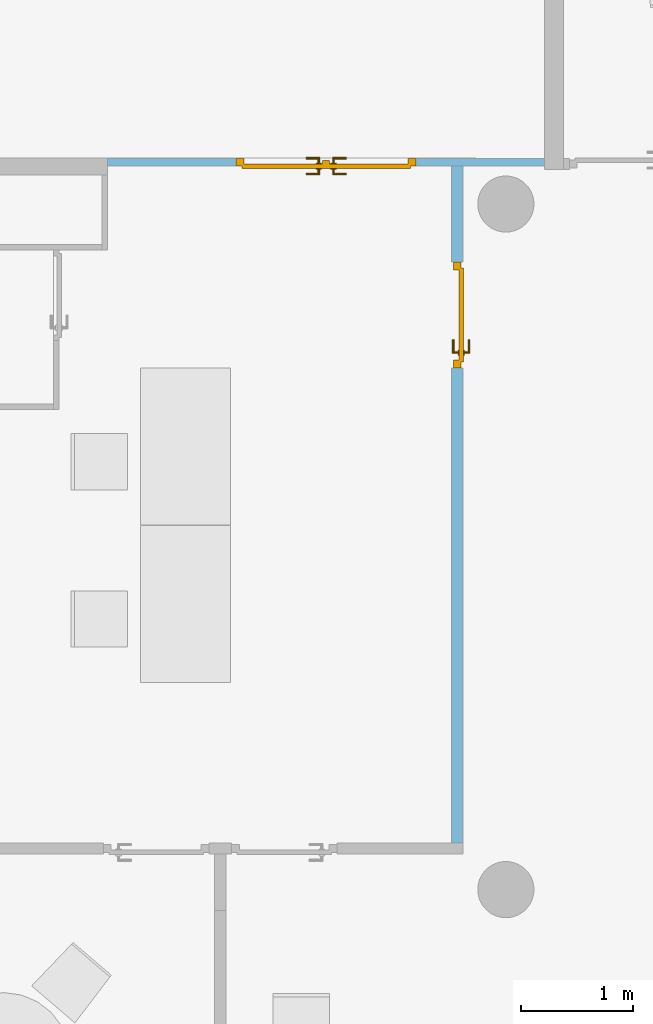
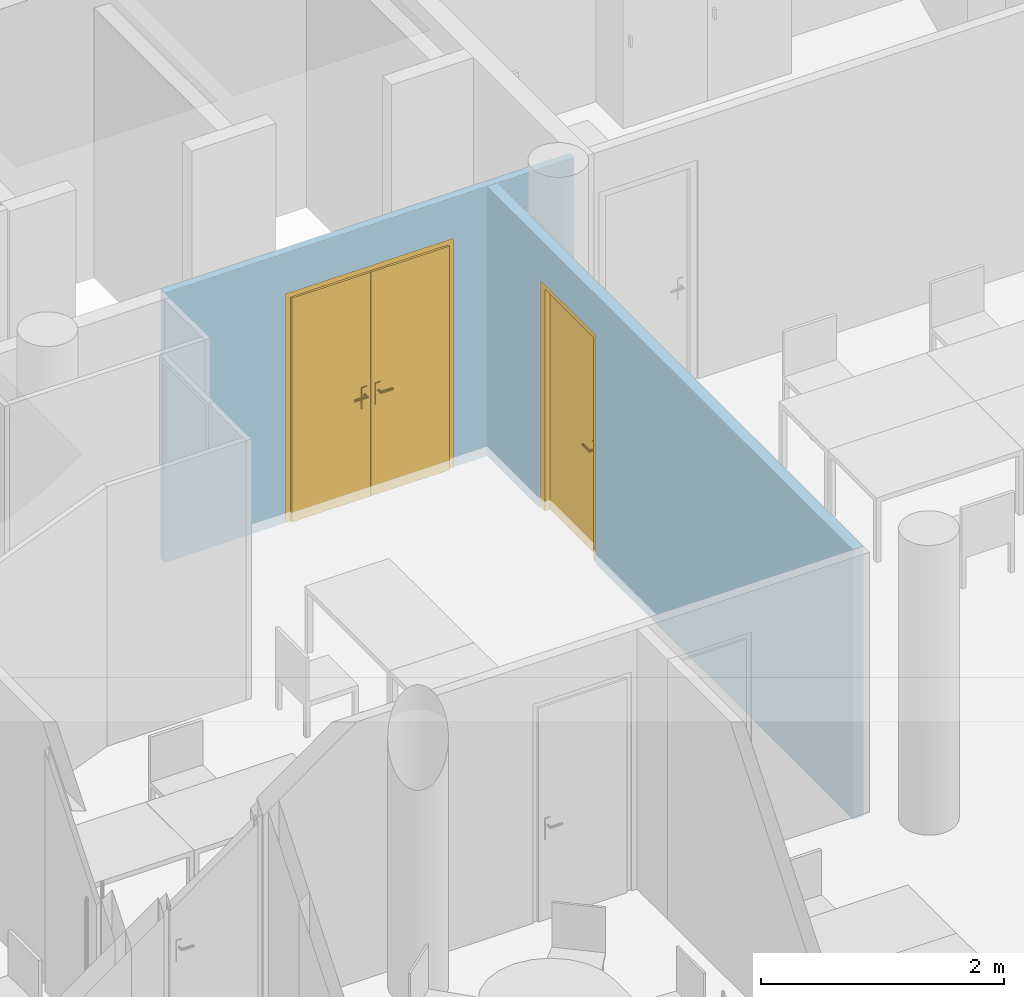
"""IFC4 building model written with IfcOpenShell, lengths in metres."""

import ifcopenshell
import ifcopenshell.guid

model = None  # the IFC model being written
_history = None  # IfcOwnerHistory: only IFC2X3 demands one
_inside = {}  # id of a spatial element -> (the spatial element, [elements in it])
_under = {}  # id of a project, library or spatial element -> (it, [spatial elements below it])
_declared = {}  # id of a project -> (the project, [libraries it declares])
_typed = {}  # id of a type object -> (the type object, [elements of that type])
_made_of = {}  # id of a material, layer set ... -> (it, [elements and type objects made of it])


def new_model(schema):
    """Start an empty IFC model of exactly this schema.

    Asked for "IFC4X3", IfcOpenShell would pick the latest addendum, in which some entities
    have other attributes; the version numbers below select the first issue.
    IFC2X3 requires an IfcOwnerHistory on every rooted entity: one is made here for all.
    """
    global model, _history
    if schema == "IFC4X3":
        model = ifcopenshell.file(schema_version=(4, 3, 0, 0))
    else:
        model = ifcopenshell.file(schema=schema)
    _inside.clear()
    _under.clear()
    _declared.clear()
    _typed.clear()
    _made_of.clear()
    _history = None
    if model.schema == "IFC2X3":
        org = make("IfcOrganization", Name="unknown")
        user = make(
            "IfcPersonAndOrganization",
            ThePerson=make("IfcPerson", FamilyName="unknown"),
            TheOrganization=org,
        )
        app = make(
            "IfcApplication",
            ApplicationDeveloper=org,
            Version="unknown",
            ApplicationFullName="unknown",
            ApplicationIdentifier="unknown",
        )
        _history = make(
            "IfcOwnerHistory",
            OwningUser=user,
            OwningApplication=app,
            ChangeAction="ADDED",
            CreationDate=0,
        )
    return model


def make(cls, **values):
    """One entity of the class cls with the attributes given. An attribute that is None is left unset."""
    return model.create_entity(
        cls, **{name: value for name, value in values.items() if value is not None}
    )


def entity(cls, *values):
    """Any entity or typed value of the class cls, its attributes in the order of the schema. None: left unset."""
    e = model.create_entity(cls)
    for i, value in enumerate(values):
        if value is not None:
            e[i] = value
    return e


def rooted(cls, **values):
    """An entity with a GlobalId (a new one), such as an element, a storey or a relation."""
    return make(cls, GlobalId=ifcopenshell.guid.new(), OwnerHistory=_history, **values)


def si_unit(unit_type, name, prefix=None):
    """IfcSIUnit, for example si_unit("LENGTHUNIT", "METRE", prefix="MILLI")."""
    return make("IfcSIUnit", UnitType=unit_type, Prefix=prefix, Name=name)


def converted_unit(unit_type, name, factor, base, dimensions=None, offset=None):
    """IfcConversionBasedUnit, such as the inch: factor (a typed value) times the base unit."""
    return make(
        "IfcConversionBasedUnit"
        if offset is None
        else "IfcConversionBasedUnitWithOffset",
        ConversionOffset=offset,
        Dimensions=None
        if dimensions is None
        else entity("IfcDimensionalExponents", *dimensions),
        UnitType=unit_type,
        Name=name,
        ConversionFactor=make(
            "IfcMeasureWithUnit", ValueComponent=factor, UnitComponent=base
        ),
    )


def derived_unit(unit_type, elements):
    """IfcDerivedUnit: a product of units, each with its exponent."""
    return make(
        "IfcDerivedUnit",
        Elements=[
            make("IfcDerivedUnitElement", Unit=unit, Exponent=power)
            for unit, power in elements
        ],
        UnitType=unit_type,
    )


def assignment(units):
    """IfcUnitAssignment: the units of a project."""
    return None if units is None else make("IfcUnitAssignment", Units=units)


def point(xyz):
    """IfcCartesianPoint."""
    return None if xyz is None else make("IfcCartesianPoint", Coordinates=xyz)


def direction(xyz):
    """IfcDirection."""
    return None if xyz is None else make("IfcDirection", DirectionRatios=xyz)


def frame(location, z_axis=None, x_axis=None):
    """IfcAxis2Placement3D, a coordinate frame: its origin and axes. An axis left out is left unset."""
    return make(
        "IfcAxis2Placement3D",
        Location=point(location),
        Axis=direction(z_axis),
        RefDirection=direction(x_axis),
    )


def frame_2d(location, x_axis=None):
    """IfcAxis2Placement2D, a coordinate frame in the plane: its origin and x axis."""
    return make(
        "IfcAxis2Placement2D", Location=point(location), RefDirection=direction(x_axis)
    )


def origin():
    """The frame at (0, 0, 0) with its axes left unset."""
    return frame((0.0, 0.0, 0.0))


def origin_with_axes():
    """The frame at (0, 0, 0) with the z axis (0, 0, 1) and the x axis (1, 0, 0) written out."""
    return frame((0.0, 0.0, 0.0), z_axis=(0.0, 0.0, 1.0), x_axis=(1.0, 0.0, 0.0))


def place(relative_to, where):
    """IfcLocalPlacement: puts the frame where relative to a parent placement (None: the world)."""
    return make(
        "IfcLocalPlacement", PlacementRelTo=relative_to, RelativePlacement=where
    )


def context(
    kind, dimensions, precision=None, world=None, true_north=None, identifier=None
):
    """IfcGeometricRepresentationContext, for example the 3D "Model" context."""
    return make(
        "IfcGeometricRepresentationContext",
        ContextIdentifier=identifier,
        ContextType=kind,
        CoordinateSpaceDimension=dimensions,
        Precision=precision,
        WorldCoordinateSystem=world,
        TrueNorth=true_north,
    )


def subcontext(parent, identifier, kind, view, scale=None):
    """IfcGeometricRepresentationSubContext, for example "Body" below "Model"."""
    return make(
        "IfcGeometricRepresentationSubContext",
        ContextIdentifier=identifier,
        ContextType=kind,
        ParentContext=parent,
        TargetScale=scale,
        TargetView=view,
    )


def project(units=None, contexts=None):
    """IfcProject with its units and contexts."""
    return rooted(
        "IfcProject",
        Name="project",
        RepresentationContexts=contexts,
        UnitsInContext=assignment(units),
    )


def spatial(cls, under=None, at=None, **own):
    """A site, building, storey or space (cls), placed at a placement, below another one or the project."""
    s = rooted(cls, ObjectPlacement=at, **own)
    if under is not None:
        _under.setdefault(under.id(), (under, []))[1].append(s)
    return s


def polyline(points):
    """IfcPolyline through the points."""
    return make("IfcPolyline", Points=[point(p) for p in points])


def profile(cls, at=None, kind="AREA", **sizes):
    """A parametric profile (cls). Its sizes go by their IFC names, for example OverallWidth=200.0."""
    return make(cls, ProfileType=kind, Position=at, **sizes)


def rectangle(**sizes):
    """IfcRectangleProfileDef."""
    return profile("IfcRectangleProfileDef", **sizes)


def outline(outer, holes=None, kind="AREA"):
    """IfcArbitraryClosedProfileDef: a profile drawn as a closed curve; with holes, ...WithVoids."""
    if holes is None:
        return make("IfcArbitraryClosedProfileDef", ProfileType=kind, OuterCurve=outer)
    return make(
        "IfcArbitraryProfileDefWithVoids",
        ProfileType=kind,
        OuterCurve=outer,
        InnerCurves=holes,
    )


def extrude(swept, where, along, depth):
    """IfcExtrudedAreaSolid: the profile swept, set in the frame where, extruded along a direction by depth."""
    return make(
        "IfcExtrudedAreaSolid",
        SweptArea=swept,
        Position=where,
        ExtrudedDirection=direction(along),
        Depth=depth,
    )


def faces_of(points, faces, orient=None, outer=None):
    """IfcFace entities. A face is a list of loops; a loop is a list of indices into points, from 0.

    orient and outer hold one flag for each loop. By default every Orientation is true, the
    first loop of a face is its IfcFaceOuterBound and the others are IfcFaceBound.
    """
    made = []
    for i, loops in enumerate(faces):
        bounds = []
        for j, loop in enumerate(loops):
            is_outer = j == 0 if outer is None else outer[i][j]
            bounds.append(
                make(
                    "IfcFaceOuterBound" if is_outer else "IfcFaceBound",
                    Bound=make("IfcPolyLoop", Polygon=[points[k] for k in loop]),
                    Orientation=True if orient is None else orient[i][j],
                )
            )
        made.append(make("IfcFace", Bounds=bounds))
    return made


def faceted_brep(points, faces, orient=None, outer=None, voids=None):
    """IfcFacetedBrep: a solid bounded by flat faces; with voids (closed shells), ...WithVoids."""
    shared = [point(p) for p in points]
    hull = make("IfcClosedShell", CfsFaces=faces_of(shared, faces, orient, outer))
    if voids is None:
        return make("IfcFacetedBrep", Outer=hull)
    return make(
        "IfcFacetedBrepWithVoids",
        Outer=hull,
        Voids=[
            make(cls, CfsFaces=faces_of(shared, fs, o, b)) for cls, fs, o, b in voids
        ],
    )


def shape(context_of_items, identifier, shape_type, items):
    """IfcShapeRepresentation: the items that make up one representation, for example the "Body"."""
    return make(
        "IfcShapeRepresentation",
        ContextOfItems=context_of_items,
        RepresentationIdentifier=identifier,
        RepresentationType=shape_type,
        Items=items,
    )


def source(mapping_origin, context_of_items, identifier, shape_type, items):
    """IfcRepresentationMap: a shape defined once, which mapped items show again and again."""
    return make(
        "IfcRepresentationMap",
        MappingOrigin=mapping_origin,
        MappedRepresentation=shape(context_of_items, identifier, shape_type, items),
    )


def transform(
    local_origin,
    x_axis=None,
    y_axis=None,
    z_axis=None,
    scale=None,
    scale2=None,
    scale3=None,
    uniform=True,
):
    """IfcCartesianTransformationOperator3D, or its non-uniform kind. x_axis, y_axis, z_axis: its Axis1, 2, 3."""
    if uniform:
        return make(
            "IfcCartesianTransformationOperator3D",
            Axis1=direction(x_axis),
            Axis2=direction(y_axis),
            LocalOrigin=point(local_origin),
            Scale=scale,
            Axis3=direction(z_axis),
        )
    return make(
        "IfcCartesianTransformationOperator3DnonUniform",
        Axis1=direction(x_axis),
        Axis2=direction(y_axis),
        LocalOrigin=point(local_origin),
        Scale=scale,
        Axis3=direction(z_axis),
        Scale2=scale2,
        Scale3=scale3,
    )


def mapped(mapping_source, mapping_target):
    """IfcMappedItem: shows the shape of a source again, moved by a transform."""
    return make(
        "IfcMappedItem", MappingSource=mapping_source, MappingTarget=mapping_target
    )


def material(Name=None, Category=None):
    """IfcMaterial."""
    return make("IfcMaterial", Name=Name, Category=Category)


def layer(
    of_material, thickness, ventilated=None, Name=None, Category=None, Priority=None
):
    """IfcMaterialLayer: one layer of a wall or slab, of a material (None: an air gap)."""
    return make(
        "IfcMaterialLayer",
        Material=of_material,
        LayerThickness=thickness,
        IsVentilated=ventilated,
        Name=Name,
        Category=Category,
        Priority=Priority,
    )


def layer_set(layers, Name=None):
    """IfcMaterialLayerSet."""
    return make("IfcMaterialLayerSet", MaterialLayers=layers, LayerSetName=Name)


def layer_usage(for_layer_set, set_direction, sense, offset, extent=None):
    """IfcMaterialLayerSetUsage: how a layer set lies in its element."""
    return make(
        "IfcMaterialLayerSetUsage",
        ForLayerSet=for_layer_set,
        LayerSetDirection=set_direction,
        DirectionSense=sense,
        OffsetFromReferenceLine=offset,
        ReferenceExtent=extent,
    )


def made_of(thing, what):
    """Note that an element or type object is made of a material, layer set ...; save() writes the relation."""
    if what is not None:
        _made_of.setdefault(what.id(), (what, []))[1].append(thing)
    return thing


def element(
    cls,
    number,
    at=None,
    inside=None,
    cuts=None,
    type_object=None,
    material=None,
    context=None,
    identifier="Body",
    shape_type=None,
    held_by="IfcProductDefinitionShape",
    body=None,
    shapes=None,
    **own,
):
    """One element of the class cls, such as IfcWall. Its Tag is "e" and its number.

    at: its placement. inside: the storey or other place that contains it. cuts: it is an
    opening in that element (IfcRelVoidsElement). A single representation is given by context,
    identifier, shape_type and body (its items); several are given by shapes. held_by: the class
    of the entity that holds the representations. save() writes the other relations.
    """
    e = rooted(cls, Tag="e%d" % number, ObjectPlacement=at, **own)
    if body is not None:
        shapes = [shape(context, identifier, shape_type, body)]
    if shapes is not None:
        e.Representation = make(held_by, Representations=shapes)
    if inside is not None:
        _inside.setdefault(inside.id(), (inside, []))[1].append(e)
    if cuts is not None:
        rooted(
            "IfcRelVoidsElement", RelatingBuildingElement=cuts, RelatedOpeningElement=e
        )
    if type_object is not None:
        _typed.setdefault(type_object.id(), (type_object, []))[1].append(e)
    return made_of(e, material)


def fill(opening, filler):
    """IfcRelFillsElement: the door or window that sits in an opening."""
    return rooted(
        "IfcRelFillsElement",
        RelatingOpeningElement=opening,
        RelatedBuildingElement=filler,
    )


def aggregate(whole, parts):
    """IfcRelAggregates: a whole, such as a stair, and the parts it consists of."""
    return rooted("IfcRelAggregates", RelatingObject=whole, RelatedObjects=parts)


def save(model, path):
    """Write the relations noted so far, then the file.

    IfcRelAggregates (storeys below a building ...), IfcRelContainedInSpatialStructure (elements
    in a storey), IfcRelDefinesByType, IfcRelAssociatesMaterial and IfcRelDeclares: one each for
    every whole, place, type object, material and project.
    """
    for whole, parts in _under.values():
        aggregate(whole, parts)
    for where, things in _inside.values():
        rooted(
            "IfcRelContainedInSpatialStructure",
            RelatedElements=things,
            RelatingStructure=where,
        )
    for kind, things in _typed.values():
        rooted("IfcRelDefinesByType", RelatedObjects=things, RelatingType=kind)
    for what, things in _made_of.values():
        rooted("IfcRelAssociatesMaterial", RelatedObjects=things, RelatingMaterial=what)
    for by, libraries in _declared.values():
        rooted("IfcRelDeclares", RelatingContext=by, RelatedDefinitions=libraries)
    model.write(path)


model = new_model("IFC4")

# Units and contexts
model_context = context("Model", 3, precision=1e-05, world=origin())
body_context = subcontext(model_context, "Body", "Model", "MODEL_VIEW")
ifc_project = project(units=[si_unit("LENGTHUNIT", "METRE"), si_unit("AREAUNIT", "SQUARE_METRE"), si_unit("VOLUMEUNIT", "CUBIC_METRE"), si_unit("MASSUNIT", "GRAM", prefix="KILO"), converted_unit("PLANEANGLEUNIT", "DEGREE", entity("IfcPlaneAngleMeasure", 0.0174532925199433), si_unit("PLANEANGLEUNIT", "RADIAN"), dimensions=[0, 0, 0, 0, 0, 0, 0]), derived_unit("THERMALTRANSMITTANCEUNIT", [(si_unit("POWERUNIT", "WATT"), 1), (si_unit("THERMODYNAMICTEMPERATUREUNIT", "KELVIN"), -1), (si_unit("LENGTHUNIT", "METRE"), -2)]), derived_unit("VOLUMETRICFLOWRATEUNIT", [(si_unit("LENGTHUNIT", "METRE"), 3), (converted_unit("TIMEUNIT", "hour", entity("IfcTimeMeasure", 3600.0), si_unit("TIMEUNIT", "SECOND"), dimensions=[0, 0, 1, 0, 0, 0, 0]), -1), (si_unit("LENGTHUNIT", "METRE"), -1)])], contexts=[model_context])

# Building, storeys
building_placement = place(None, origin())
building = spatial("IfcBuilding", under=ifc_project, at=building_placement, Name="HABITATGE PLURIFAMILIAR", CompositionType="ELEMENT")
storey_1_placement = place(building_placement, frame((0.0, 0.0, 9.26)))
storey_1 = spatial("IfcBuildingStorey", under=building, at=storey_1_placement, Name="PLANTA SEGONA", CompositionType="ELEMENT", Elevation=9.26)
storey_2_placement = place(storey_1_placement, frame((0.0, 0.0, 6.25)))
storey_2 = spatial("IfcBuildingStorey", under=storey_1, at=storey_2_placement, Name="NOU", CompositionType="PARTIAL")

# Wall, opening, door
ifc_material_1 = material()
ifc_layer_1 = layer(ifc_material_1, 0.07)
ifc_layer_set_1 = layer_set([ifc_layer_1])
ifc_layer_usage_1 = layer_usage(ifc_layer_set_1, "AXIS2", "POSITIVE", 0.0)
wall_1_placement = place(storey_2_placement, frame((421.336984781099, 24.3069029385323, -6.35), z_axis=(0.0, 0.0, 1.0), x_axis=(-1.0, 0.0, 0.0)))
wall_1 = element("IfcWall", 1, at=wall_1_placement, inside=storey_2, material=ifc_layer_usage_1, Name="Mampara P2", context=body_context, shape_type="SweptSolid", body=[
    extrude(rectangle(XDim=3.89, YDim=0.07, at=frame_2d((1.945, 0.035), x_axis=(1.0, 0.0))), origin_with_axes(), (0.0, 0.0, 1.0), 2.71),
])
opening_1_placement = place(wall_1_placement, frame((2.74438738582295, 0.07, 0.0), z_axis=(0.0, -1.0, 0.0), x_axis=(0.0, 0.0, 1.0)))
opening_1 = element("IfcOpeningElement", 2, at=opening_1_placement, cuts=wall_1, Name="Vano puerta", ObjectType="Opening", context=body_context, shape_type="SweptSolid", body=[
    extrude(outline(polyline([(2.3, 1.60013809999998), (2.3, 0.0), (0.0, 0.0), (0.0, 1.60013809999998), (2.3, 1.60013809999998)])), origin_with_axes(), (0.0, 0.0, 1.0), 0.07),
])
shared_shape_1 = source(origin_with_axes(), body_context, "Body", "Brep", [
    faceted_brep([(1.60013809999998, 0.07, 2.3), (1.53013809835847, 0.07, 2.3), (1.53013809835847, 0.07, 0.0), (1.60013809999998, 0.07, 0.0), (1.60013809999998, 0.0, 0.0), (1.53013809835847, 0.0, 0.0), (1.53013809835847, 0.0, 2.3), (1.60013809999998, 0.0, 2.3)], [[[0, 1, 2, 3]], [[4, 5, 6, 7]], [[3, 4, 7, 0]], [[2, 5, 4, 3]], [[1, 6, 5, 2]], [[0, 7, 6, 1]]], orient=[[False], [False], [False], [False], [False], [False]]),
    faceted_brep([(0.0700000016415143, 0.07, 2.3), (0.0, 0.07, 2.3), (0.0, 0.07, 0.0), (0.0700000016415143, 0.07, 0.0), (0.0700000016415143, 0.0, 0.0), (0.0, 0.0, 0.0), (0.0, 0.0, 2.3), (0.0700000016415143, 0.0, 2.3)], [[[0, 1, 2, 3]], [[4, 5, 6, 7]], [[3, 4, 7, 0]], [[2, 5, 4, 3]], [[1, 6, 5, 2]], [[0, 7, 6, 1]]], orient=[[False], [False], [False], [False], [False], [False]]),
    faceted_brep([(1.53013809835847, 0.07, 2.3), (0.0700000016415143, 0.07, 2.3), (0.0700000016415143, 0.07, 2.23), (1.53013809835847, 0.07, 2.23), (1.53013809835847, 0.0, 2.23), (0.0700000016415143, 0.0, 2.23), (0.0700000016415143, 0.0, 2.3), (1.53013809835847, 0.0, 2.3)], [[[0, 1, 2, 3]], [[4, 5, 6, 7]], [[3, 4, 7, 0]], [[2, 5, 4, 3]], [[1, 6, 5, 2]], [[0, 7, 6, 1]]], orient=[[False], [False], [False], [False], [False], [False]]),
    faceted_brep([(1.55013809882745, 0.09, 2.25), (0.800569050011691, 0.09, 2.25), (0.800569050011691, 0.09, 0.0), (1.55013809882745, 0.09, 0.0), (1.55013809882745, 0.05, 0.0), (0.800569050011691, 0.05, 0.0), (0.800569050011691, 0.05, 2.25), (1.55013809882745, 0.05, 2.25)], [[[0, 1, 2, 3]], [[4, 5, 6, 7]], [[3, 4, 7, 0]], [[2, 5, 4, 3]], [[1, 6, 5, 2]], [[0, 7, 6, 1]]], orient=[[False], [False], [False], [False], [False], [False]]),
    faceted_brep([(0.830569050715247, 0.05, 2.23), (0.770569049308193, 0.05, 2.23), (0.770569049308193, 0.05, 0.0), (0.830569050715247, 0.05, 0.0), (0.830569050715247, 0.02, 0.0), (0.770569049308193, 0.02, 0.0), (0.770569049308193, 0.02, 2.23), (0.830569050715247, 0.02, 2.23)], [[[0, 1, 2, 3]], [[4, 5, 6, 7]], [[3, 4, 7, 0]], [[2, 5, 4, 3]], [[1, 6, 5, 2]], [[0, 7, 6, 1]]], orient=[[False], [False], [False], [False], [False], [False]]),
    faceted_brep([(0.890569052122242, 0.05, 1.125), (0.840569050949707, 0.05, 1.125), (0.840569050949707, 0.05, 0.91), (0.890569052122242, 0.05, 0.91), (0.890569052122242, 0.04, 0.91), (0.840569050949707, 0.04, 0.91), (0.840569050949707, 0.04, 1.125), (0.890569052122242, 0.04, 1.125)], [[[0, 1, 2, 3]], [[4, 5, 6, 7]], [[3, 4, 7, 0]], [[2, 5, 4, 3]], [[1, 6, 5, 2]], [[0, 7, 6, 1]]], orient=[[False], [False], [False], [False], [False], [False]]),
    faceted_brep([(0.865569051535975, 0.04, 1.06), (0.860569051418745, 0.04, 1.05866025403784), (0.856908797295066, 0.04, 1.055), (0.855569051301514, 0.04, 1.05), (0.856908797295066, 0.04, 1.045), (0.860569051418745, 0.04, 1.04133974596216), (0.865569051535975, 0.04, 1.04), (0.870569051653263, 0.04, 1.04133974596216), (0.874229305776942, 0.04, 1.045), (0.875569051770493, 0.04, 1.05), (0.874229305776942, 0.04, 1.055), (0.870569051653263, 0.04, 1.05866025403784), (0.865569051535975, 0.0, 1.06), (0.860569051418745, -0.005, 1.05866025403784), (0.856908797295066, -0.00866025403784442, 1.055), (0.855569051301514, -0.01, 1.05), (0.856908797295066, -0.00866025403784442, 1.045), (0.860569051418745, -0.005, 1.04133974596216), (0.865569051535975, 0.0, 1.04), (0.870569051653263, 0.005, 1.04133974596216), (0.874229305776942, 0.00866025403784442, 1.045), (0.875569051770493, 0.01, 1.05), (0.874229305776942, 0.00866025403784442, 1.055), (0.870569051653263, 0.005, 1.05866025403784), (0.980569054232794, 0.0, 1.06), (0.980569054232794, 0.005, 1.05866025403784), (0.980569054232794, 0.00866025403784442, 1.055), (0.980569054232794, 0.01, 1.05), (0.980569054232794, 0.00866025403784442, 1.045), (0.980569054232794, 0.005, 1.04133974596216), (0.980569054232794, 0.0, 1.04), (0.980569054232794, -0.005, 1.04133974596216), (0.980569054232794, -0.00866025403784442, 1.045), (0.980569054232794, -0.01, 1.05), (0.980569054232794, -0.00866025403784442, 1.055), (0.980569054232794, -0.005, 1.05866025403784)], [[[0, 1, 2, 3, 4, 5, 6, 7, 8, 9, 10, 11]], [[0, 12, 13, 1]], [[1, 13, 14, 2]], [[2, 14, 15, 3]], [[3, 15, 16, 4]], [[4, 16, 17, 5]], [[5, 17, 18, 6]], [[6, 18, 19, 7]], [[7, 19, 20, 8]], [[8, 20, 21, 9]], [[9, 21, 22, 10]], [[10, 22, 23, 11]], [[11, 23, 12, 0]], [[24, 25, 26, 27, 28, 29, 30, 31, 32, 33, 34, 35]], [[12, 24, 35, 13]], [[13, 35, 34, 14]], [[14, 34, 33, 15]], [[15, 33, 32, 16]], [[16, 32, 31, 17]], [[17, 31, 30, 18]], [[18, 30, 29, 19]], [[19, 29, 28, 20]], [[20, 28, 27, 21]], [[21, 27, 26, 22]], [[22, 26, 25, 23]], [[23, 25, 24, 12]]], orient=[[False], [False], [False], [False], [False], [False], [False], [False], [False], [False], [False], [False], [False], [False], [False], [False], [False], [False], [False], [False], [False], [False], [False], [False], [False], [False]]),
    faceted_brep([(0.890569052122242, 0.09, 1.125), (0.890569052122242, 0.09, 0.91), (0.840569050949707, 0.09, 0.91), (0.840569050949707, 0.09, 1.125), (0.890569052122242, 0.1, 0.91), (0.890569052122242, 0.1, 1.125), (0.840569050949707, 0.1, 1.125), (0.840569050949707, 0.1, 0.91)], [[[0, 1, 2, 3]], [[4, 5, 6, 7]], [[1, 0, 5, 4]], [[2, 1, 4, 7]], [[3, 2, 7, 6]], [[0, 3, 6, 5]]], orient=[[False], [False], [False], [False], [False], [False]]),
    faceted_brep([(0.865569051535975, 0.1, 1.06), (0.870569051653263, 0.1, 1.05866025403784), (0.874229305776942, 0.1, 1.055), (0.875569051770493, 0.1, 1.05), (0.874229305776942, 0.1, 1.045), (0.870569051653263, 0.1, 1.04133974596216), (0.865569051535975, 0.1, 1.04), (0.860569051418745, 0.1, 1.04133974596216), (0.856908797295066, 0.1, 1.045), (0.855569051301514, 0.1, 1.05), (0.856908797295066, 0.1, 1.055), (0.860569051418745, 0.1, 1.05866025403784), (0.860569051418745, 0.145, 1.05866025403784), (0.865569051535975, 0.14, 1.06), (0.856908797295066, 0.148660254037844, 1.055), (0.855569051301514, 0.15, 1.05), (0.856908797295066, 0.148660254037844, 1.045), (0.860569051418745, 0.145, 1.04133974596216), (0.865569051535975, 0.14, 1.04), (0.870569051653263, 0.135, 1.04133974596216), (0.874229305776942, 0.131339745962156, 1.045), (0.875569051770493, 0.13, 1.05), (0.874229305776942, 0.131339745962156, 1.055), (0.870569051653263, 0.135, 1.05866025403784), (0.980569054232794, 0.14, 1.06), (0.980569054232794, 0.145, 1.05866025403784), (0.980569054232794, 0.148660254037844, 1.055), (0.980569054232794, 0.15, 1.05), (0.980569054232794, 0.148660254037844, 1.045), (0.980569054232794, 0.145, 1.04133974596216), (0.980569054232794, 0.14, 1.04), (0.980569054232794, 0.135, 1.04133974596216), (0.980569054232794, 0.131339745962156, 1.045), (0.980569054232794, 0.13, 1.05), (0.980569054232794, 0.131339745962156, 1.055), (0.980569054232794, 0.135, 1.05866025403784)], [[[0, 1, 2, 3, 4, 5, 6, 7, 8, 9, 10, 11]], [[0, 11, 12, 13]], [[11, 10, 14, 12]], [[10, 9, 15, 14]], [[9, 8, 16, 15]], [[8, 7, 17, 16]], [[7, 6, 18, 17]], [[6, 5, 19, 18]], [[5, 4, 20, 19]], [[4, 3, 21, 20]], [[3, 2, 22, 21]], [[2, 1, 23, 22]], [[1, 0, 13, 23]], [[24, 25, 26, 27, 28, 29, 30, 31, 32, 33, 34, 35]], [[13, 12, 25, 24]], [[12, 14, 26, 25]], [[14, 15, 27, 26]], [[15, 16, 28, 27]], [[16, 17, 29, 28]], [[17, 18, 30, 29]], [[18, 19, 31, 30]], [[19, 20, 32, 31]], [[20, 21, 33, 32]], [[21, 22, 34, 33]], [[22, 23, 35, 34]], [[23, 13, 24, 35]]], orient=[[False], [False], [False], [False], [False], [False], [False], [False], [False], [False], [False], [False], [False], [False], [False], [False], [False], [False], [False], [False], [False], [False], [False], [False], [False], [False]]),
    faceted_brep([(0.799569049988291, 0.09, 2.25), (0.0500000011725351, 0.09, 2.25), (0.0500000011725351, 0.09, 0.0), (0.799569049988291, 0.09, 0.0), (0.799569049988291, 0.05, 0.0), (0.0500000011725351, 0.05, 0.0), (0.0500000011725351, 0.05, 2.25), (0.799569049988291, 0.05, 2.25)], [[[0, 1, 2, 3]], [[4, 5, 6, 7]], [[3, 4, 7, 0]], [[2, 5, 4, 3]], [[1, 6, 5, 2]], [[0, 7, 6, 1]]], orient=[[False], [False], [False], [False], [False], [False]]),
    faceted_brep([(0.759569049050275, 0.05, 1.125), (0.70956904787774, 0.05, 1.125), (0.70956904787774, 0.05, 0.91), (0.759569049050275, 0.05, 0.91), (0.759569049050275, 0.04, 0.91), (0.70956904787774, 0.04, 0.91), (0.70956904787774, 0.04, 1.125), (0.759569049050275, 0.04, 1.125)], [[[0, 1, 2, 3]], [[4, 5, 6, 7]], [[3, 4, 7, 0]], [[2, 5, 4, 3]], [[1, 6, 5, 2]], [[0, 7, 6, 1]]], orient=[[False], [False], [False], [False], [False], [False]]),
    faceted_brep([(0.734569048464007, 0.04, 1.06), (0.729569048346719, 0.04, 1.05866025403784), (0.72590879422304, 0.04, 1.055), (0.724569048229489, 0.04, 1.05), (0.72590879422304, 0.04, 1.045), (0.729569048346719, 0.04, 1.04133974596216), (0.734569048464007, 0.04, 1.04), (0.739569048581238, 0.04, 1.04133974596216), (0.743229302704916, 0.04, 1.045), (0.744569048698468, 0.04, 1.05), (0.743229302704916, 0.04, 1.055), (0.739569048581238, 0.04, 1.05866025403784), (0.739569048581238, -0.005, 1.05866025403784), (0.734569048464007, 0.0, 1.06), (0.743229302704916, -0.00866025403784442, 1.055), (0.744569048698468, -0.01, 1.05), (0.743229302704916, -0.00866025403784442, 1.045), (0.739569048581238, -0.005, 1.04133974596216), (0.734569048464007, 0.0, 1.04), (0.729569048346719, 0.005, 1.04133974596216), (0.72590879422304, 0.00866025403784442, 1.045), (0.724569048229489, 0.01, 1.05), (0.72590879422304, 0.00866025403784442, 1.055), (0.729569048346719, 0.005, 1.05866025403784), (0.619569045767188, 0.0, 1.06), (0.619569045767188, -0.005, 1.05866025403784), (0.619569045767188, -0.00866025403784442, 1.055), (0.619569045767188, -0.01, 1.05), (0.619569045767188, -0.00866025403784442, 1.045), (0.619569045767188, -0.005, 1.04133974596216), (0.619569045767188, 0.0, 1.04), (0.619569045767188, 0.005, 1.04133974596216), (0.619569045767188, 0.00866025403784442, 1.045), (0.619569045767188, 0.01, 1.05), (0.619569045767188, 0.00866025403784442, 1.055), (0.619569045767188, 0.005, 1.05866025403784)], [[[0, 1, 2, 3, 4, 5, 6, 7, 8, 9, 10, 11]], [[0, 11, 12, 13]], [[11, 10, 14, 12]], [[10, 9, 15, 14]], [[9, 8, 16, 15]], [[8, 7, 17, 16]], [[7, 6, 18, 17]], [[6, 5, 19, 18]], [[5, 4, 20, 19]], [[4, 3, 21, 20]], [[3, 2, 22, 21]], [[2, 1, 23, 22]], [[1, 0, 13, 23]], [[24, 25, 26, 27, 28, 29, 30, 31, 32, 33, 34, 35]], [[13, 12, 25, 24]], [[12, 14, 26, 25]], [[14, 15, 27, 26]], [[15, 16, 28, 27]], [[16, 17, 29, 28]], [[17, 18, 30, 29]], [[18, 19, 31, 30]], [[19, 20, 32, 31]], [[20, 21, 33, 32]], [[21, 22, 34, 33]], [[22, 23, 35, 34]], [[23, 13, 24, 35]]], orient=[[False], [False], [False], [False], [False], [False], [False], [False], [False], [False], [False], [False], [False], [False], [False], [False], [False], [False], [False], [False], [False], [False], [False], [False], [False], [False]]),
    faceted_brep([(0.759569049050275, 0.09, 1.125), (0.759569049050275, 0.09, 0.91), (0.70956904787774, 0.09, 0.91), (0.70956904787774, 0.09, 1.125), (0.759569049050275, 0.1, 0.91), (0.759569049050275, 0.1, 1.125), (0.70956904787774, 0.1, 1.125), (0.70956904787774, 0.1, 0.91)], [[[0, 1, 2, 3]], [[4, 5, 6, 7]], [[1, 0, 5, 4]], [[2, 1, 4, 7]], [[3, 2, 7, 6]], [[0, 3, 6, 5]]], orient=[[False], [False], [False], [False], [False], [False]]),
    faceted_brep([(0.734569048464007, 0.1, 1.06), (0.739569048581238, 0.1, 1.05866025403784), (0.743229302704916, 0.1, 1.055), (0.744569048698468, 0.1, 1.05), (0.743229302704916, 0.1, 1.045), (0.739569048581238, 0.1, 1.04133974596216), (0.734569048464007, 0.1, 1.04), (0.729569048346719, 0.1, 1.04133974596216), (0.72590879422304, 0.1, 1.045), (0.724569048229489, 0.1, 1.05), (0.72590879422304, 0.1, 1.055), (0.729569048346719, 0.1, 1.05866025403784), (0.734569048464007, 0.14, 1.06), (0.739569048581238, 0.145, 1.05866025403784), (0.743229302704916, 0.148660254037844, 1.055), (0.744569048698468, 0.15, 1.05), (0.743229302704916, 0.148660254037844, 1.045), (0.739569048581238, 0.145, 1.04133974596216), (0.734569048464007, 0.14, 1.04), (0.729569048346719, 0.135, 1.04133974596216), (0.72590879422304, 0.131339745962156, 1.045), (0.724569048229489, 0.13, 1.05), (0.72590879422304, 0.131339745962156, 1.055), (0.729569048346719, 0.135, 1.05866025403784), (0.619569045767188, 0.14, 1.06), (0.619569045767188, 0.135, 1.05866025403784), (0.619569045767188, 0.131339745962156, 1.055), (0.619569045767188, 0.13, 1.05), (0.619569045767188, 0.131339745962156, 1.045), (0.619569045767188, 0.135, 1.04133974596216), (0.619569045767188, 0.14, 1.04), (0.619569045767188, 0.145, 1.04133974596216), (0.619569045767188, 0.148660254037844, 1.045), (0.619569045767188, 0.15, 1.05), (0.619569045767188, 0.148660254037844, 1.055), (0.619569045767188, 0.145, 1.05866025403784)], [[[0, 1, 2, 3, 4, 5, 6, 7, 8, 9, 10, 11]], [[0, 12, 13, 1]], [[1, 13, 14, 2]], [[2, 14, 15, 3]], [[3, 15, 16, 4]], [[4, 16, 17, 5]], [[5, 17, 18, 6]], [[6, 18, 19, 7]], [[7, 19, 20, 8]], [[8, 20, 21, 9]], [[9, 21, 22, 10]], [[10, 22, 23, 11]], [[11, 23, 12, 0]], [[24, 25, 26, 27, 28, 29, 30, 31, 32, 33, 34, 35]], [[12, 24, 35, 13]], [[13, 35, 34, 14]], [[14, 34, 33, 15]], [[15, 33, 32, 16]], [[16, 32, 31, 17]], [[17, 31, 30, 18]], [[18, 30, 29, 19]], [[19, 29, 28, 20]], [[20, 28, 27, 21]], [[21, 27, 26, 22]], [[22, 26, 25, 23]], [[23, 25, 24, 12]]], orient=[[False], [False], [False], [False], [False], [False], [False], [False], [False], [False], [False], [False], [False], [False], [False], [False], [False], [False], [False], [False], [False], [False], [False], [False], [False], [False]]),
])
door_1_placement = place(opening_1_placement, frame((0.0, 1.60013809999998, 0.07), z_axis=(1.0, 0.0, 0.0), x_axis=(0.0, -1.0, 0.0)))
door_1 = element("IfcDoor", 3, at=door_1_placement, inside=storey_2, Name="Porta P2", OperationType="USERDEFINED", OverallHeight=2.3, OverallWidth=1.60014, PredefinedType="DOOR", context=body_context, shape_type="MappedRepresentation", body=[
    mapped(shared_shape_1, transform((0.0, 0.0, 0.0), x_axis=(1.0, 0.0, 0.0), y_axis=(0.0, 1.0, 0.0), z_axis=(0.0, 0.0, 1.0), scale=1.0)),
])
fill(opening_1, door_1)

ifc_material_2 = material()
ifc_layer_2 = layer(ifc_material_2, 0.1)
ifc_layer_set_2 = layer_set([ifc_layer_2])
ifc_layer_usage_2 = layer_usage(ifc_layer_set_2, "AXIS2", "POSITIVE", 0.0)
wall_2_placement = place(storey_2_placement, frame((420.609785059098, 18.2154678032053, -6.35), z_axis=(0.0, 0.0, 1.0), x_axis=(0.0, 1.0, 0.0)))
wall_2 = element("IfcWall", 4, at=wall_2_placement, inside=storey_2, material=ifc_layer_usage_2, Name="Mampara P2", context=body_context, shape_type="SweptSolid", body=[
    extrude(rectangle(XDim=6.02143513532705, YDim=0.1, at=frame_2d((3.01071756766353, 0.05), x_axis=(1.0, 0.0))), origin_with_axes(), (0.0, 0.0, 1.0), 2.71),
])
opening_2_placement = place(wall_2_placement, frame((5.1671169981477, 0.1, 0.0), z_axis=(0.0, -1.0, 0.0), x_axis=(0.0, 0.0, 1.0)))
opening_2 = element("IfcOpeningElement", 5, at=opening_2_placement, cuts=wall_2, Name="Vano puerta", ObjectType="Opening", context=body_context, shape_type="SweptSolid", body=[
    extrude(outline(polyline([(2.3, 0.94), (2.3, 0.0), (0.0, 0.0), (0.0, 0.94), (2.3, 0.94)])), origin_with_axes(), (0.0, 0.0, 1.0), 0.1),
])
shared_shape_2 = source(origin_with_axes(), body_context, "Body", "Brep", [
    faceted_brep([(0.940000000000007, 0.0699999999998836, 2.3), (0.870000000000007, 0.0699999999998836, 2.3), (0.870000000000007, 0.0699999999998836, 0.0), (0.940000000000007, 0.0699999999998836, 0.0), (0.940000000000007, 0.0, 0.0), (0.870000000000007, 0.0, 0.0), (0.870000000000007, 0.0, 2.3), (0.940000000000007, 0.0, 2.3)], [[[0, 1, 2, 3]], [[4, 5, 6, 7]], [[3, 4, 7, 0]], [[2, 5, 4, 3]], [[1, 6, 5, 2]], [[0, 7, 6, 1]]], orient=[[False], [False], [False], [False], [False], [False]]),
    faceted_brep([(0.0700000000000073, 0.0699999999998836, 2.3), (0.0, 0.0699999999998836, 2.3), (0.0, 0.0699999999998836, 0.0), (0.0700000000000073, 0.0699999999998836, 0.0), (0.0700000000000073, 0.0, 0.0), (0.0, 0.0, 0.0), (0.0, 0.0, 2.3), (0.0700000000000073, 0.0, 2.3)], [[[0, 1, 2, 3]], [[4, 5, 6, 7]], [[3, 4, 7, 0]], [[2, 5, 4, 3]], [[1, 6, 5, 2]], [[0, 7, 6, 1]]], orient=[[False], [False], [False], [False], [False], [False]]),
    faceted_brep([(0.870000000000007, 0.0699999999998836, 2.3), (0.0700000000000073, 0.0699999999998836, 2.3), (0.0700000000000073, 0.0699999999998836, 2.23), (0.870000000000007, 0.0699999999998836, 2.23), (0.870000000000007, 0.0, 2.23), (0.0700000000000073, 0.0, 2.23), (0.0700000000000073, 0.0, 2.3), (0.870000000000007, 0.0, 2.3)], [[[0, 1, 2, 3]], [[4, 5, 6, 7]], [[3, 4, 7, 0]], [[2, 5, 4, 3]], [[1, 6, 5, 2]], [[0, 7, 6, 1]]], orient=[[False], [False], [False], [False], [False], [False]]),
    faceted_brep([(0.890000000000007, 0.0899999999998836, 2.25), (0.0500000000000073, 0.0899999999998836, 2.25), (0.0500000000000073, 0.0899999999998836, 0.0), (0.890000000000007, 0.0899999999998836, 0.0), (0.890000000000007, 0.0499999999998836, 0.0), (0.0500000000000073, 0.0499999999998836, 0.0), (0.0500000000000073, 0.0499999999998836, 2.25), (0.890000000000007, 0.0499999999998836, 2.25)], [[[0, 1, 2, 3]], [[4, 5, 6, 7]], [[3, 4, 7, 0]], [[2, 5, 4, 3]], [[1, 6, 5, 2]], [[0, 7, 6, 1]]], orient=[[False], [False], [False], [False], [False], [False]]),
    faceted_brep([(0.830000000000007, 0.0499999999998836, 1.125), (0.780000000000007, 0.0499999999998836, 1.125), (0.780000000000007, 0.0499999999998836, 0.91), (0.830000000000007, 0.0499999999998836, 0.91), (0.830000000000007, 0.0399999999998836, 0.91), (0.780000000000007, 0.0399999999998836, 0.91), (0.780000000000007, 0.0399999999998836, 1.125), (0.830000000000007, 0.0399999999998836, 1.125)], [[[0, 1, 2, 3]], [[4, 5, 6, 7]], [[3, 4, 7, 0]], [[2, 5, 4, 3]], [[1, 6, 5, 2]], [[0, 7, 6, 1]]], orient=[[False], [False], [False], [False], [False], [False]]),
    faceted_brep([(0.805000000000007, 0.0399999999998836, 1.06), (0.800000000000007, 0.0399999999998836, 1.05866025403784), (0.796339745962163, 0.0399999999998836, 1.055), (0.795000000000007, 0.0399999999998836, 1.05), (0.796339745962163, 0.0399999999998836, 1.045), (0.800000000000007, 0.0399999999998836, 1.04133974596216), (0.805000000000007, 0.0399999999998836, 1.04), (0.810000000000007, 0.0399999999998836, 1.04133974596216), (0.813660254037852, 0.0399999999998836, 1.045), (0.815000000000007, 0.0399999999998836, 1.05), (0.813660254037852, 0.0399999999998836, 1.055), (0.810000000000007, 0.0399999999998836, 1.05866025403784), (0.810000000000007, -0.00500000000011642, 1.05866025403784), (0.805000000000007, 0.0, 1.06), (0.813660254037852, -0.00866025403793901, 1.055), (0.815000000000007, -0.0100000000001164, 1.05), (0.813660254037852, -0.00866025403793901, 1.045), (0.810000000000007, -0.00500000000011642, 1.04133974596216), (0.805000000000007, 0.0, 1.04), (0.800000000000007, 0.00499999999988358, 1.04133974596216), (0.796339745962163, 0.00866025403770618, 1.045), (0.795000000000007, 0.00999999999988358, 1.05), (0.796339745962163, 0.00866025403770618, 1.055), (0.800000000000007, 0.00499999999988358, 1.05866025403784), (0.690000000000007, 0.0, 1.06), (0.690000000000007, -0.00500000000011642, 1.05866025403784), (0.690000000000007, -0.00866025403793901, 1.055), (0.690000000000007, -0.0100000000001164, 1.05), (0.690000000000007, -0.00866025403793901, 1.045), (0.690000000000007, -0.00500000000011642, 1.04133974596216), (0.690000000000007, 0.0, 1.04), (0.690000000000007, 0.00499999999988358, 1.04133974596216), (0.690000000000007, 0.00866025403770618, 1.045), (0.690000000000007, 0.00999999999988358, 1.05), (0.690000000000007, 0.00866025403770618, 1.055), (0.690000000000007, 0.00499999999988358, 1.05866025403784)], [[[0, 1, 2, 3, 4, 5, 6, 7, 8, 9, 10, 11]], [[0, 11, 12, 13]], [[11, 10, 14, 12]], [[10, 9, 15, 14]], [[9, 8, 16, 15]], [[8, 7, 17, 16]], [[7, 6, 18, 17]], [[6, 5, 19, 18]], [[5, 4, 20, 19]], [[4, 3, 21, 20]], [[3, 2, 22, 21]], [[2, 1, 23, 22]], [[1, 0, 13, 23]], [[24, 25, 26, 27, 28, 29, 30, 31, 32, 33, 34, 35]], [[13, 12, 25, 24]], [[12, 14, 26, 25]], [[14, 15, 27, 26]], [[15, 16, 28, 27]], [[16, 17, 29, 28]], [[17, 18, 30, 29]], [[18, 19, 31, 30]], [[19, 20, 32, 31]], [[20, 21, 33, 32]], [[21, 22, 34, 33]], [[22, 23, 35, 34]], [[23, 13, 24, 35]]], orient=[[False], [False], [False], [False], [False], [False], [False], [False], [False], [False], [False], [False], [False], [False], [False], [False], [False], [False], [False], [False], [False], [False], [False], [False], [False], [False]]),
    faceted_brep([(0.830000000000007, 0.0899999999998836, 1.125), (0.830000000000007, 0.0899999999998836, 0.91), (0.780000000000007, 0.0899999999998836, 0.91), (0.780000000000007, 0.0899999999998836, 1.125), (0.830000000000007, 0.0999999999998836, 0.91), (0.830000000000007, 0.0999999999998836, 1.125), (0.780000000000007, 0.0999999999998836, 1.125), (0.780000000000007, 0.0999999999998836, 0.91)], [[[0, 1, 2, 3]], [[4, 5, 6, 7]], [[1, 0, 5, 4]], [[2, 1, 4, 7]], [[3, 2, 7, 6]], [[0, 3, 6, 5]]], orient=[[False], [False], [False], [False], [False], [False]]),
    faceted_brep([(0.805000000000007, 0.0999999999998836, 1.06), (0.810000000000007, 0.0999999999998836, 1.05866025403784), (0.813660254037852, 0.0999999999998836, 1.055), (0.815000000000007, 0.0999999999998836, 1.05), (0.813660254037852, 0.0999999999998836, 1.045), (0.810000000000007, 0.0999999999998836, 1.04133974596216), (0.805000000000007, 0.0999999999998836, 1.04), (0.800000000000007, 0.0999999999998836, 1.04133974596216), (0.796339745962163, 0.0999999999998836, 1.045), (0.795000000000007, 0.0999999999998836, 1.05), (0.796339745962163, 0.0999999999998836, 1.055), (0.800000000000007, 0.0999999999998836, 1.05866025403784), (0.805000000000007, 0.139999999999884, 1.06), (0.810000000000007, 0.144999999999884, 1.05866025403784), (0.813660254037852, 0.148660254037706, 1.055), (0.815000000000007, 0.149999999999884, 1.05), (0.813660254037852, 0.148660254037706, 1.045), (0.810000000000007, 0.144999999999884, 1.04133974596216), (0.805000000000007, 0.139999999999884, 1.04), (0.800000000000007, 0.134999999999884, 1.04133974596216), (0.796339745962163, 0.131339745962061, 1.045), (0.795000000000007, 0.129999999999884, 1.05), (0.796339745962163, 0.131339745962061, 1.055), (0.800000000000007, 0.134999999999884, 1.05866025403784), (0.690000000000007, 0.139999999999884, 1.06), (0.690000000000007, 0.134999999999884, 1.05866025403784), (0.690000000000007, 0.131339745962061, 1.055), (0.690000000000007, 0.129999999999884, 1.05), (0.690000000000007, 0.131339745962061, 1.045), (0.690000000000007, 0.134999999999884, 1.04133974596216), (0.690000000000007, 0.139999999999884, 1.04), (0.690000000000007, 0.144999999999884, 1.04133974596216), (0.690000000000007, 0.148660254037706, 1.045), (0.690000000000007, 0.149999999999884, 1.05), (0.690000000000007, 0.148660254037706, 1.055), (0.690000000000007, 0.144999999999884, 1.05866025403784)], [[[0, 1, 2, 3, 4, 5, 6, 7, 8, 9, 10, 11]], [[0, 12, 13, 1]], [[1, 13, 14, 2]], [[2, 14, 15, 3]], [[3, 15, 16, 4]], [[4, 16, 17, 5]], [[5, 17, 18, 6]], [[6, 18, 19, 7]], [[7, 19, 20, 8]], [[8, 20, 21, 9]], [[9, 21, 22, 10]], [[10, 22, 23, 11]], [[11, 23, 12, 0]], [[24, 25, 26, 27, 28, 29, 30, 31, 32, 33, 34, 35]], [[12, 24, 35, 13]], [[13, 35, 34, 14]], [[14, 34, 33, 15]], [[15, 33, 32, 16]], [[16, 32, 31, 17]], [[17, 31, 30, 18]], [[18, 30, 29, 19]], [[19, 29, 28, 20]], [[20, 28, 27, 21]], [[21, 27, 26, 22]], [[22, 26, 25, 23]], [[23, 25, 24, 12]]], orient=[[False], [False], [False], [False], [False], [False], [False], [False], [False], [False], [False], [False], [False], [False], [False], [False], [False], [False], [False], [False], [False], [False], [False], [False], [False], [False]]),
])
door_2_placement = place(opening_2_placement, frame((0.0, 0.0, 0.015), z_axis=(1.0, 0.0, 0.0), x_axis=(0.0, 1.0, 0.0)))
door_2 = element("IfcDoor", 6, at=door_2_placement, inside=storey_2, Name="Porta P2", OperationType="USERDEFINED", OverallHeight=2.3, OverallWidth=0.94, PredefinedType="DOOR", context=body_context, shape_type="MappedRepresentation", body=[
    mapped(shared_shape_2, transform((0.0, 0.0, 0.0), x_axis=(1.0, 0.0, 0.0), y_axis=(0.0, 1.0, 0.0), z_axis=(0.0, 0.0, 1.0), scale=1.0)),
])
fill(opening_2, door_2)

save(model, "model.ifc")
